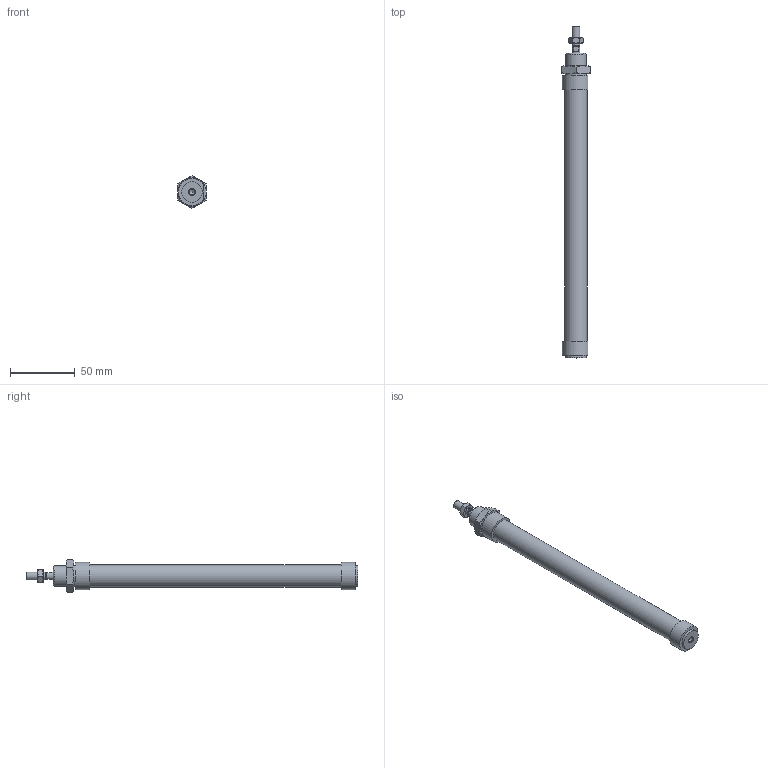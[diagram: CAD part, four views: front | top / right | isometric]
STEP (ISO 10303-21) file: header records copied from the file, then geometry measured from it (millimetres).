
FILE_DESCRIPTION((''),'2;1');
FILE_NAME('I:\Area Tecnica\Disegni\VARIE-3D\Componenti\1280\1281_##_####_#\1281_16_0160.iam.stp','2009-06-04T09:38:43',(''),(''),'Autodesk Inventor 2010','Autodesk Inventor 2010','');
FILE_SCHEMA(('AUTOMOTIVE_DESIGN { 1 0 10303 214 1 1 1 1 }'));
Length unit declared in the file: millimetre
Products named in the file (5): 1281_16_0160; C1281_16_160; S1280_16_160; 1200_16_05; 1200_16_06
Assembly tree (4 placements, depth 2):
  1281_16_0160
    C1281_16_160
    S1280_16_160
    1200_16_05
    1200_16_06
Bounding box: 22 x 256 x 25.4 mm (x, y, z)
Volume: 58329.6 mm3; surface area: 22947.4 mm2
Topology: 4 solids, 4 shells, 83 faces, 169 edges, 102 vertices
Faces by surface type: plane 34, cone 26, bspline 14, cylinder 9
Full cylindrical faces by diameter (mm): 5 x1, 6 x3, 16 x2, 17.2 x1
Entity records: 2370 total; most frequent: CARTESIAN_POINT 636, DIRECTION 314, ORIENTED_EDGE 284, AXIS2_PLACEMENT_3D 142, EDGE_CURVE 142, EDGE_LOOP 116, VERTEX_POINT 96, STYLED_ITEM 87
